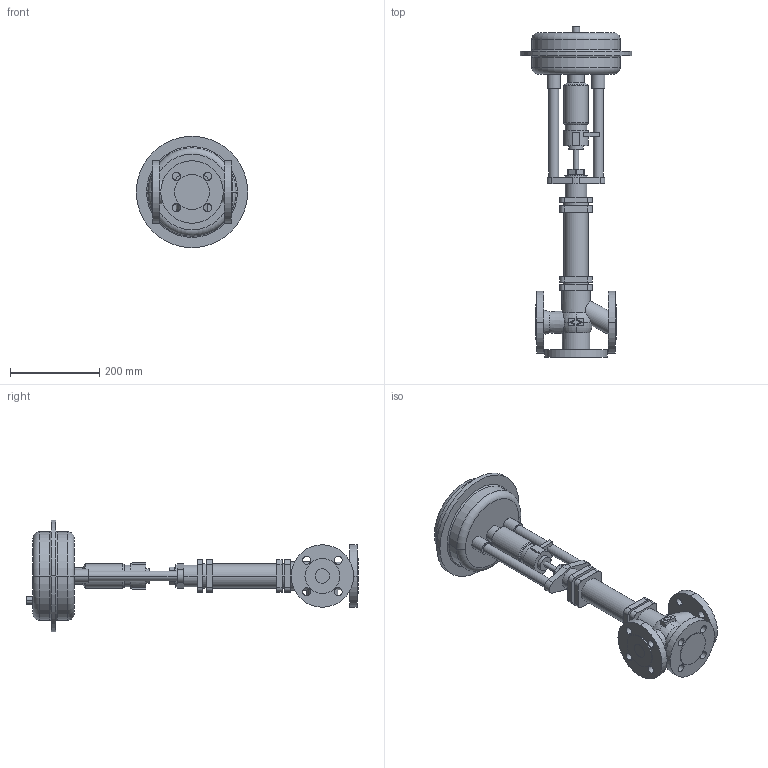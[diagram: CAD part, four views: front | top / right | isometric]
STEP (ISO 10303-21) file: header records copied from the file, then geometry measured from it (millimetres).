
FILE_DESCRIPTION(('OneSpaceDesigner STEP Export'),'2;1');
FILE_NAME('c000000746.stp','2006-09-20T11:29:45',(''),(''),'OneSpace Designer STEP processor for AP214 (Solid Model)','OneSpace Designer 13.20A 18-Aug-2005 (C) CoCreate Software GmbH','');
FILE_SCHEMA(('AUTOMOTIVE_DESIGN { 1 0 10303 214 1 1 1 1 }'));
Length unit declared in the file: millimetre
Products named in the file (2): 1; 2
Bounding box: 250 x 745 x 250 mm (x, y, z)
Volume: 5744678.8 mm3; surface area: 456265.4 mm2
Topology: 2 solids, 2 shells, 240 faces, 592 edges, 389 vertices
Faces by surface type: cylinder 114, plane 96, torus 22, cone 8
Entity records: 6725 total; most frequent: CARTESIAN_POINT 1405, ORIENTED_EDGE 1184, DIRECTION 990, EDGE_CURVE 592, VERTEX_POINT 389, AXIS2_PLACEMENT_3D 358, EDGE_LOOP 297, VECTOR 274
